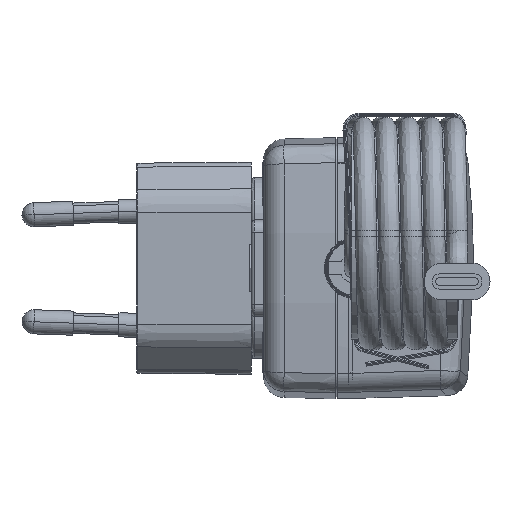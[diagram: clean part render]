
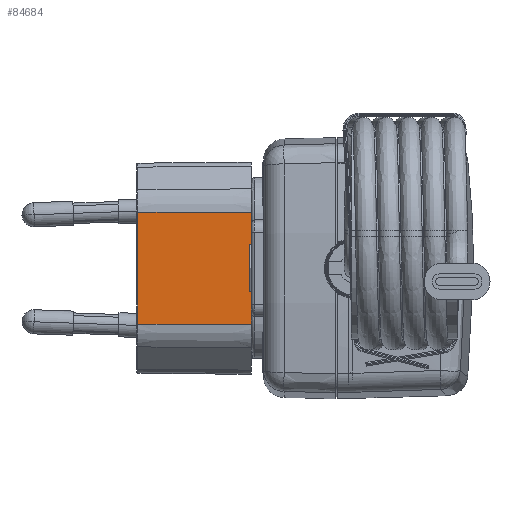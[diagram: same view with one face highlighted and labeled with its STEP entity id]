
A CAD part, left-side view. The second image highlights one B-rep face of the part: STEP entity #84684.
In plain terms, the highlighted planar face has unit normal (-1, 0.009, 0) as drawn and (0, -0.009, -1) by its records, which use the part's own axes.
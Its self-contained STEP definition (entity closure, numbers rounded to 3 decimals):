
#82260=DIRECTION('',(1.,0.,0.));
#82261=VECTOR('',#82260,18.515);
#82262=CARTESIAN_POINT('',(-9.257,-1.9,12.701));
#82263=LINE('',#82262,#82261);
#82584=DIRECTION('',(0.,-1.,0.009));
#82585=VECTOR('',#82584,18.802);
#82586=CARTESIAN_POINT('',(9.257,-1.9,12.701));
#82587=LINE('',#82586,#82585);
#82691=DIRECTION('',(1.,0.,0.));
#82692=VECTOR('',#82691,18.515);
#82693=CARTESIAN_POINT('',(-9.257,-20.702,
12.865));
#82694=LINE('',#82693,#82692);
#82695=DIRECTION('',(0.,-1.,0.009));
#82696=VECTOR('',#82695,18.802);
#82697=CARTESIAN_POINT('',(-9.257,-1.9,12.701));
#82698=LINE('',#82697,#82696);
#83257=CARTESIAN_POINT('',(-9.257,-1.9,12.701));
#83259=VERTEX_POINT('',#83257);
#83260=CARTESIAN_POINT('',(9.257,-1.9,12.701));
#83261=VERTEX_POINT('',#83260);
#83290=CARTESIAN_POINT('',(-9.257,-20.702,
12.865));
#83291=VERTEX_POINT('',#83290);
#83294=CARTESIAN_POINT('',(9.257,-20.702,
12.865));
#83295=VERTEX_POINT('',#83294);
#84673=CARTESIAN_POINT('',(-11.012,-1.9,12.701));
#84674=DIRECTION('',(0.,-0.009,-1.));
#84675=DIRECTION('',(-1.,0.,0.));
#84676=AXIS2_PLACEMENT_3D('',#84673,#84674,#84675);
#84677=PLANE('',#84676);
#84678=ORIENTED_EDGE('',*,*,#84667,.T.);
#84679=ORIENTED_EDGE('',*,*,#84467,.F.);
#84680=ORIENTED_EDGE('',*,*,#84179,.F.);
#84681=ORIENTED_EDGE('',*,*,#84228,.T.);
#84682=EDGE_LOOP('',(#84678,#84679,#84680,#84681));
#84683=FACE_OUTER_BOUND('',#84682,.F.);
#84684=ADVANCED_FACE('',(#84683),#84677,.T.);
#84179=EDGE_CURVE('',#83259,#83261,#82263,.T.);
#84228=EDGE_CURVE('',#83259,#83291,#82698,.T.);
#84467=EDGE_CURVE('',#83261,#83295,#82587,.T.);
#84667=EDGE_CURVE('',#83291,#83295,#82694,.T.);
